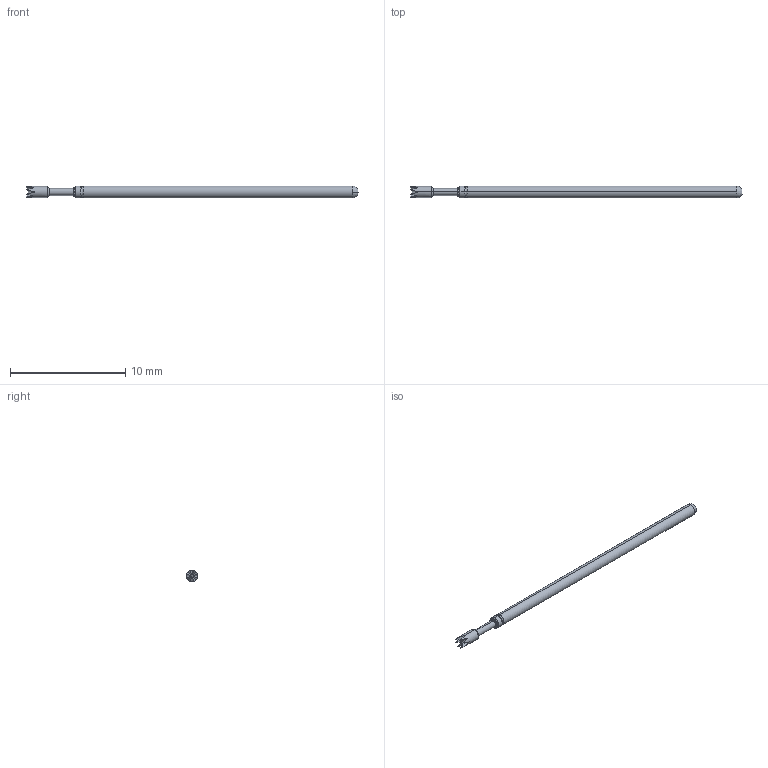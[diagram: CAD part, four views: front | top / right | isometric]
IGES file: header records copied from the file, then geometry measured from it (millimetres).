
Start section: SolidWorks IGES file using analytic representation for surfaces
Global section: file name: Z:\probe solid model mockups\Solidworks models\IGES Files\LFRE-1 IGES files\LFRE-1Z1 RECD.IGS; native system: SolidWorks 2016; preprocessor: SolidWorks 2016; author: mlee; date: 180928.083839; units: inch
Bounding box: 28.78 x 1.02 x 1.02 mm (x, y, z)
Surface area: 91.3 mm2 (no closed solid volume)
Topology: 0 solids, 0 shells, 38 faces, 210 edges, 210 vertices
Faces by surface type: bspline 22, revolution 16
